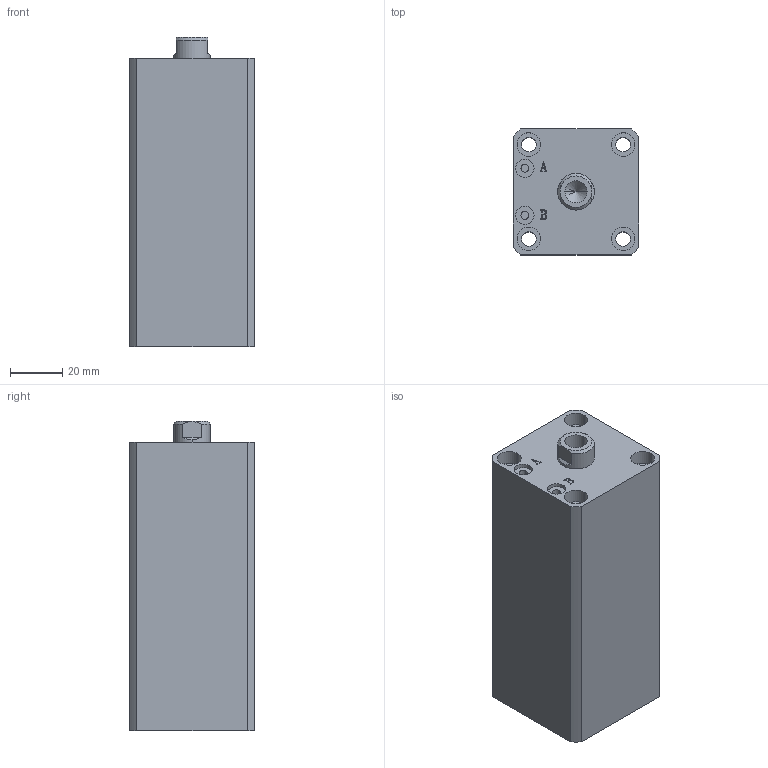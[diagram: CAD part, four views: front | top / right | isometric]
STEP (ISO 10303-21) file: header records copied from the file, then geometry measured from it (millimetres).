
FILE_DESCRIPTION (( 'STEP AP203' ), '1' );
FILE_NAME ('HTB-SDMA25-65N.STEP', '2019-10-07T11:04:36', ( '微软用户' ), ( '微软中国' ), 'SwSTEP 2.0', 'SolidWorks 2012', '' );
FILE_SCHEMA (( 'CONFIG_CONTROL_DESIGN' ));
Length unit declared in the file: millimetre
Products named in the file (3): HTB-SDMA25-65N; HTB-SDMA25-65N活塞杆; HTB-SDMA25-65掛极
Assembly tree (2 placements, depth 2):
  HTB-SDMA25-65N
    HTB-SDMA25-65掛极
    HTB-SDMA25-65N活塞杆
Bounding box: 48 x 48 x 118 mm (x, y, z)
Volume: 217113.1 mm3; surface area: 47981.8 mm2
Topology: 2 solids, 2 shells, 137 faces, 329 edges, 215 vertices
Faces by surface type: plane 65, cylinder 46, bspline 16, torus 6, cone 4
Entity records: 5072 total; most frequent: CARTESIAN_POINT 1592, ORIENTED_EDGE 654, DIRECTION 645, EDGE_CURVE 327, AXIS2_PLACEMENT_3D 232, VERTEX_POINT 215, LINE 181, VECTOR 181
